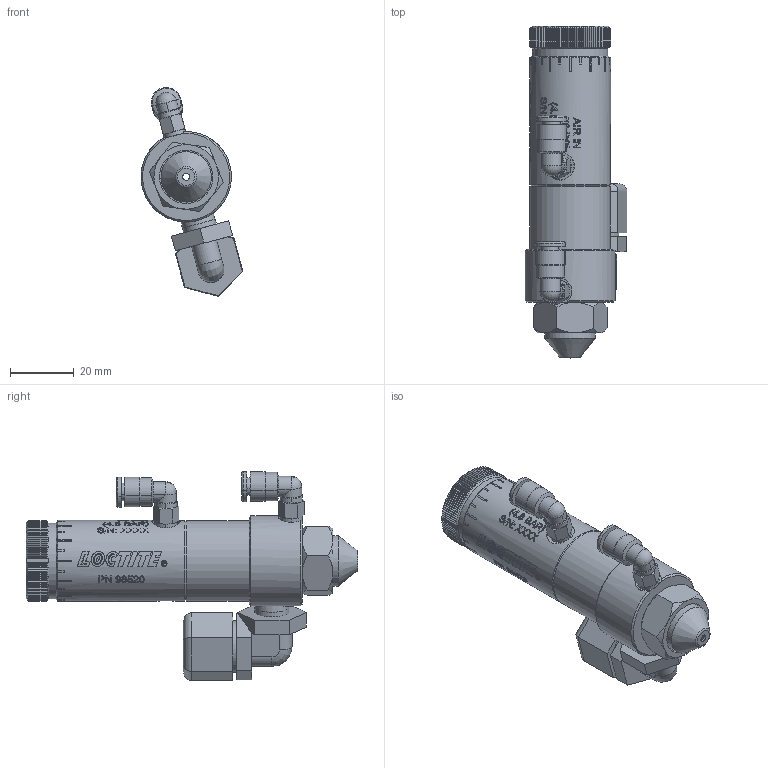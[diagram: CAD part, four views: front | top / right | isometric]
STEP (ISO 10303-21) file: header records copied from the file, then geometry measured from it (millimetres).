
FILE_DESCRIPTION((''),'2;1');
FILE_NAME('C:\3D Projects\3D Standard Parts\98520 Spray Valve.stp','2008-01-22T16:45:28',('patch'),(''),'Autodesk Inventor 2008','Autodesk Inventor 2008','');
FILE_SCHEMA(('AUTOMOTIVE_DESIGN { 1 0 10303 214 1 1 1 1 }'));
Length unit declared in the file: inch
Products named in the file (8): 98520 Spray Valve; End Cap T1000599; 989371 Valve Air Cylinder; Valve Body T1000579; T1000583 GRP; Spray Nozzle T1000585; 984110 Male Elbow 10-32 x 0.156 Tube; 984122 Parker Elbow P4ME2 0.125 NPT x 0.25 Tube
Assembly tree (8 placements, depth 2):
  98520 Spray Valve
    End Cap T1000599
    989371 Valve Air Cylinder
    Valve Body T1000579
    T1000583 GRP
    Spray Nozzle T1000585
    984110 Male Elbow 10-32 x 0.156 Tube  x2
    984122 Parker Elbow P4ME2 0.125 NPT x 0.25 Tube
Bounding box: 32.05 x 104.39 x 65.68 mm (x, y, z)
Volume: 50676.2 mm3; surface area: 27130.9 mm2
Topology: 8 solids, 8 shells, 1173 faces, 3049 edges, 1993 vertices
Faces by surface type: plane 590, bspline 331, cylinder 164, cone 73, torus 13, sphere 2
Full cylindrical faces by diameter (mm): 1.168 x1, 2.184 x1, 3.2 x1, 3.226 x1, 5.486 x1, 5.969 x1, 8.001 x2, 8.382 x1, 8.636 x1, 8.839 x1, 8.89 x1, 9.525 x2, 9.652 x1, 9.906 x1, 10.668 x1, 11.125 x1, 11.684 x1, 14.173 x1, 14.224 x3, 14.229 x1, 15.016 x1, 15.875 x3, 15.9 x1, 16.256 x1, 16.764 x1, 17.526 x1, 17.653 x1, 19.05 x1, 21.26 x1, 22.225 x1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
Entity records: 86062 total; most frequent: CARTESIAN_POINT 62062, ORIENTED_EDGE 5586, DIRECTION 3439, EDGE_CURVE 2793, VERTEX_POINT 1888, EDGE_LOOP 1319, VECTOR 1175, LINE 1175
